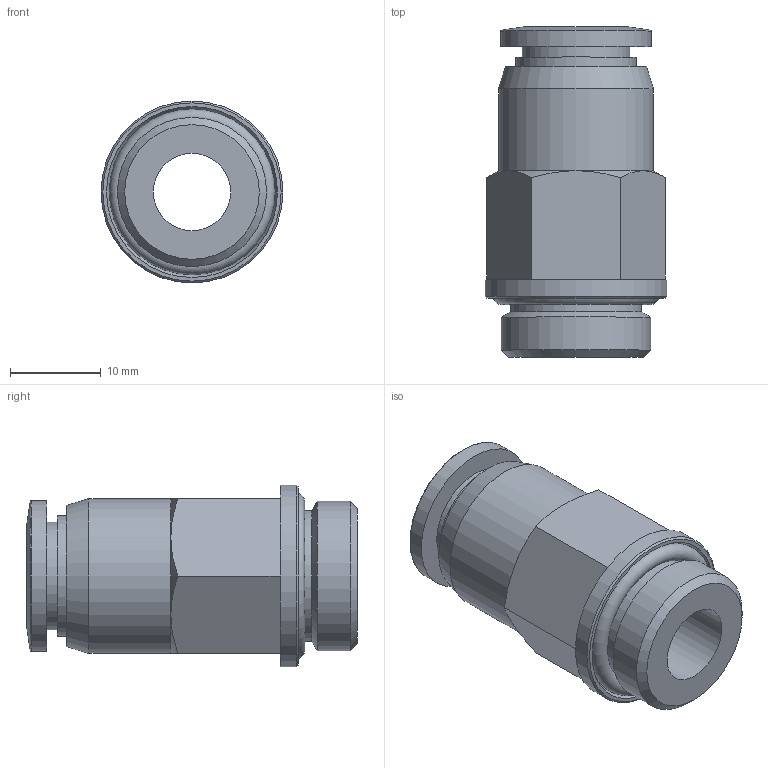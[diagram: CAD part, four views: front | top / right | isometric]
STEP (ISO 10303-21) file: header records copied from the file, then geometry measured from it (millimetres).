
FILE_DESCRIPTION((''),'2;1');
FILE_NAME('D:\INVENTOR\[New Inventor]\CDC Products 3D Ass''y\Stop Fittings\G\SPC-G\SPC10-G03.stp','2009-02-13T13:32:23',('Microsoft'),(''),'Autodesk Inventor 2008','Autodesk Inventor 2008','');
FILE_SCHEMA(('AUTOMOTIVE_DESIGN { 1 0 10303 214 1 1 1 1 }'));
Length unit declared in the file: millimetre
Products named in the file (1): SPC10-G03
Bounding box: 20 x 36.35 x 20 mm (x, y, z)
Volume: 5617 mm3; surface area: 4147.1 mm2
Topology: 2 solids, 2 shells, 42 faces, 82 edges, 48 vertices
Faces by surface type: plane 16, cone 12, cylinder 10, torus 4
Full cylindrical faces by diameter (mm): 8.5 x1, 10.3 x1, 11.8 x1, 13.2 x1, 14.4 x2, 16.4 x1, 16.6 x1, 17 x1, 20 x1
Entity records: 956 total; most frequent: CARTESIAN_POINT 171, DIRECTION 168, ORIENTED_EDGE 118, AXIS2_PLACEMENT_3D 78, EDGE_LOOP 72, EDGE_CURVE 59, VERTEX_POINT 45, FACE_OUTER_BOUND 42
